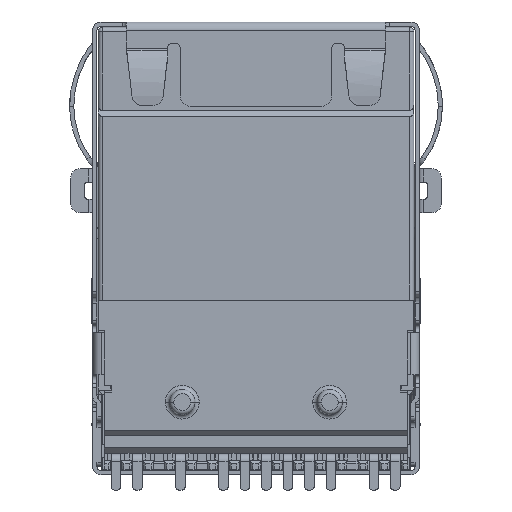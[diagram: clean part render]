
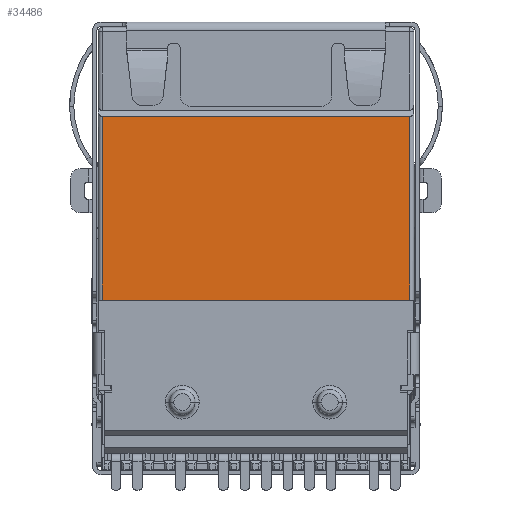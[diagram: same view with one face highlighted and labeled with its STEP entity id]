
A CAD part, front view. The second image highlights one B-rep face of the part: STEP entity #34486.
In plain terms, the highlighted planar face has unit normal (0, -1, 0).
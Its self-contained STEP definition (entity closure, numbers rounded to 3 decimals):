
#3580=DIRECTION('',(1.,0.,0.));
#3581=VECTOR('',#3580,14.6);
#3582=CARTESIAN_POINT('',(-7.3,0.,-12.95));
#3583=LINE('',#3582,#3581);
#7195=DIRECTION('',(0.,0.,1.));
#7196=VECTOR('',#7195,8.7);
#7197=CARTESIAN_POINT('',(7.3,0.,-12.95));
#7198=LINE('',#7197,#7196);
#7211=DIRECTION('',(1.,0.,0.));
#7212=VECTOR('',#7211,14.6);
#7213=CARTESIAN_POINT('',(-7.3,0.,-4.25));
#7214=LINE('',#7213,#7212);
#7223=DIRECTION('',(0.,0.,-1.));
#7224=VECTOR('',#7223,8.7);
#7225=CARTESIAN_POINT('',(-7.3,0.,-4.25));
#7226=LINE('',#7225,#7224);
#21452=CARTESIAN_POINT('',(-7.3,0.,-12.95));
#21453=VERTEX_POINT('',#21452);
#21454=CARTESIAN_POINT('',(7.3,0.,-12.95));
#21455=VERTEX_POINT('',#21454);
#22413=CARTESIAN_POINT('',(7.3,0.,-4.25));
#22414=VERTEX_POINT('',#22413);
#22415=CARTESIAN_POINT('',(-7.3,0.,-4.25));
#22416=VERTEX_POINT('',#22415);
#34473=CARTESIAN_POINT('',(0.,0.,-8.6));
#34474=DIRECTION('',(0.,1.,0.));
#34475=DIRECTION('',(0.,0.,-1.));
#34476=AXIS2_PLACEMENT_3D('',#34473,#34474,#34475);
#34477=PLANE('',#34476);
#34479=ORIENTED_EDGE('',*,*,#34478,.F.);
#34481=ORIENTED_EDGE('',*,*,#34480,.T.);
#34482=ORIENTED_EDGE('',*,*,#34465,.F.);
#34483=ORIENTED_EDGE('',*,*,#29576,.F.);
#34484=EDGE_LOOP('',(#34479,#34481,#34482,#34483));
#34485=FACE_OUTER_BOUND('',#34484,.F.);
#34486=ADVANCED_FACE('',(#34485),#34477,.F.);
#29576=EDGE_CURVE('',#21453,#21455,#3583,.T.);
#34465=EDGE_CURVE('',#21455,#22414,#7198,.T.);
#34478=EDGE_CURVE('',#22416,#21453,#7226,.T.);
#34480=EDGE_CURVE('',#22416,#22414,#7214,.T.);
